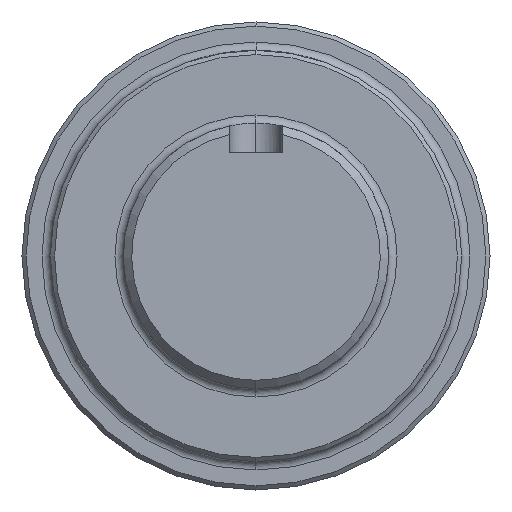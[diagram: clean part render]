
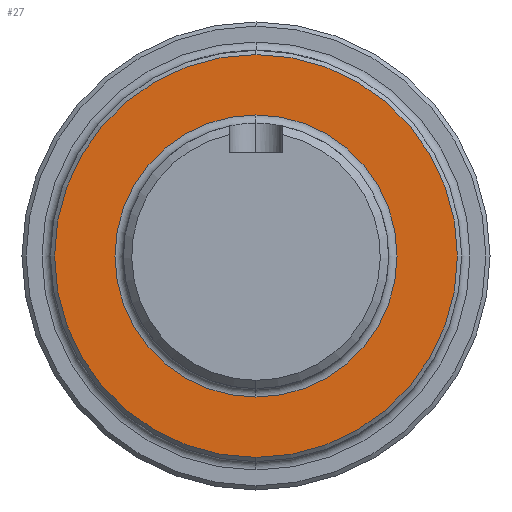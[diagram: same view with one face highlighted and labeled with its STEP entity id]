
A CAD part, left-side view. The second image highlights one B-rep face of the part: STEP entity #27.
In plain terms, the highlighted planar face has unit normal (-1, 0, 0).
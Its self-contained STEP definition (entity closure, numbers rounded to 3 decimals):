
#27 = ADVANCED_FACE ( 'NONE', ( #1309, #1324 ), #1702, .T. ) ;
#75 = CARTESIAN_POINT ( 'NONE',  ( -95.4, 0., 0. ) ) ;
#89 = DIRECTION ( 'NONE',  ( 0., 0., 1. ) ) ;
#100 = DIRECTION ( 'NONE',  ( -1., 0., 0. ) ) ;
#165 = EDGE_LOOP ( 'NONE', ( #339, #355 ) ) ;
#336 = ORIENTED_EDGE ( 'NONE', *, *, #587, .T. ) ;
#339 = ORIENTED_EDGE ( 'NONE', *, *, #1823, .T. ) ;
#352 = ORIENTED_EDGE ( 'NONE', *, *, #1822, .T. ) ;
#355 = ORIENTED_EDGE ( 'NONE', *, *, #564, .T. ) ;
#396 = EDGE_LOOP ( 'NONE', ( #336, #352 ) ) ;
#409 = VERTEX_POINT ( 'NONE', #1657 ) ;
#436 = VERTEX_POINT ( 'NONE', #1351 ) ;
#441 = VERTEX_POINT ( 'NONE', #1347 ) ;
#564 = EDGE_CURVE ( 'NONE', #409, #441, #730, .T. ) ;
#587 = EDGE_CURVE ( 'NONE', #1271, #436, #756, .T. ) ;
#628 = DIRECTION ( 'NONE',  ( 0., 0., 1. ) ) ;
#730 = CIRCLE ( 'NONE', #815, 24.105 ) ;
#756 = CIRCLE ( 'NONE', #831, 16.875 ) ;
#809 = AXIS2_PLACEMENT_3D ( 'NONE', #1711, #1820, #1821 ) ;
#815 = AXIS2_PLACEMENT_3D ( 'NONE', #75, #100, #89 ) ;
#831 = AXIS2_PLACEMENT_3D ( 'NONE', #930, #931, #932 ) ;
#930 = CARTESIAN_POINT ( 'NONE',  ( -95.4, 0., 0. ) ) ;
#931 = DIRECTION ( 'NONE',  ( 1., 0., 0. ) ) ;
#932 = DIRECTION ( 'NONE',  ( 0., 0., 1. ) ) ;
#1237 = AXIS2_PLACEMENT_3D ( 'NONE', #1651, #1652, #1653 ) ;
#1238 = AXIS2_PLACEMENT_3D ( 'NONE', #1656, #1816, #628 ) ;
#1271 = VERTEX_POINT ( 'NONE', #1629 ) ;
#1309 = FACE_BOUND ( 'NONE', #396, .T. ) ;
#1324 = FACE_OUTER_BOUND ( 'NONE', #165, .T. ) ;
#1347 = CARTESIAN_POINT ( 'NONE',  ( -95.4, 0., -24.105 ) ) ;
#1351 = CARTESIAN_POINT ( 'NONE',  ( -95.4, 0., -16.875 ) ) ;
#1629 = CARTESIAN_POINT ( 'NONE',  ( -95.4, 0., 16.875 ) ) ;
#1651 = CARTESIAN_POINT ( 'NONE',  ( -95.4, 0., 0. ) ) ;
#1652 = DIRECTION ( 'NONE',  ( 1., 0., 0. ) ) ;
#1653 = DIRECTION ( 'NONE',  ( 0., 0., 1. ) ) ;
#1656 = CARTESIAN_POINT ( 'NONE',  ( -95.4, 0., 0. ) ) ;
#1657 = CARTESIAN_POINT ( 'NONE',  ( -95.4, 0., 24.105 ) ) ;
#1702 = PLANE ( 'NONE',  #809 ) ;
#1711 = CARTESIAN_POINT ( 'NONE',  ( -95.4, 0., 0. ) ) ;
#1759 = CIRCLE ( 'NONE', #1238, 24.105 ) ;
#1773 = CIRCLE ( 'NONE', #1237, 16.875 ) ;
#1816 = DIRECTION ( 'NONE',  ( -1., 0., 0. ) ) ;
#1820 = DIRECTION ( 'NONE',  ( -1., 0., 0. ) ) ;
#1821 = DIRECTION ( 'NONE',  ( 0., 0., 1. ) ) ;
#1822 = EDGE_CURVE ( 'NONE', #436, #1271, #1773, .T. ) ;
#1823 = EDGE_CURVE ( 'NONE', #441, #409, #1759, .T. ) ;
